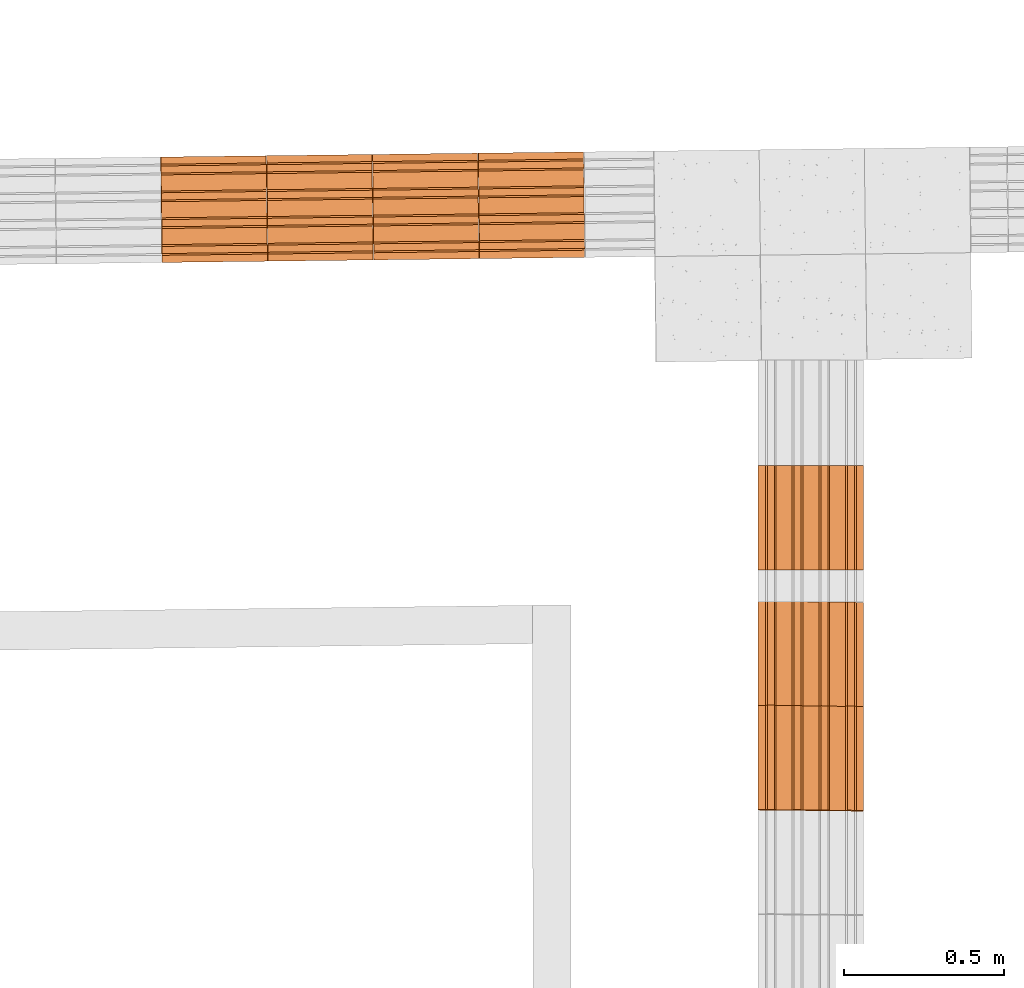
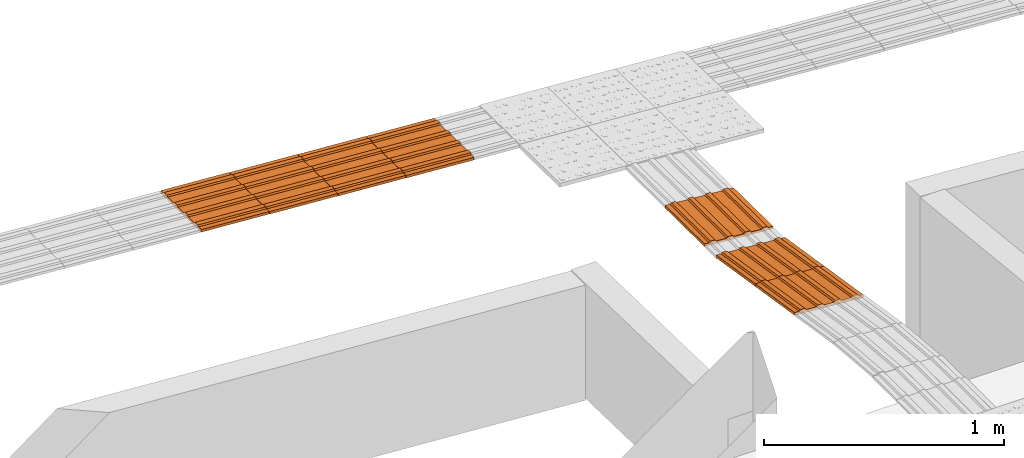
# One storey, part 198 of 237: 7 proxies.
"""IFC2X3 building model written with IfcOpenShell, lengths in millimetres."""

import ifcopenshell
import ifcopenshell.guid

model = None  # the IFC model being written
_history = None  # IfcOwnerHistory: only IFC2X3 demands one
_inside = {}  # id of a spatial element -> (the spatial element, [elements in it])
_under = {}  # id of a project, library or spatial element -> (it, [spatial elements below it])
_declared = {}  # id of a project -> (the project, [libraries it declares])
_typed = {}  # id of a type object -> (the type object, [elements of that type])
_made_of = {}  # id of a material, layer set ... -> (it, [elements and type objects made of it])


def new_model(schema):
    """Start an empty IFC model of exactly this schema.

    Asked for "IFC4X3", IfcOpenShell would pick the latest addendum, in which some entities
    have other attributes; the version numbers below select the first issue.
    IFC2X3 requires an IfcOwnerHistory on every rooted entity: one is made here for all.
    """
    global model, _history
    if schema == "IFC4X3":
        model = ifcopenshell.file(schema_version=(4, 3, 0, 0))
    else:
        model = ifcopenshell.file(schema=schema)
    _inside.clear()
    _under.clear()
    _declared.clear()
    _typed.clear()
    _made_of.clear()
    _history = None
    if model.schema == "IFC2X3":
        org = make("IfcOrganization", Name="unknown")
        user = make(
            "IfcPersonAndOrganization",
            ThePerson=make("IfcPerson", FamilyName="unknown"),
            TheOrganization=org,
        )
        app = make(
            "IfcApplication",
            ApplicationDeveloper=org,
            Version="unknown",
            ApplicationFullName="unknown",
            ApplicationIdentifier="unknown",
        )
        _history = make(
            "IfcOwnerHistory",
            OwningUser=user,
            OwningApplication=app,
            ChangeAction="ADDED",
            CreationDate=0,
        )
    return model


def make(cls, **values):
    """One entity of the class cls with the attributes given. An attribute that is None is left unset."""
    return model.create_entity(
        cls, **{name: value for name, value in values.items() if value is not None}
    )


def entity(cls, *values):
    """Any entity or typed value of the class cls, its attributes in the order of the schema. None: left unset."""
    e = model.create_entity(cls)
    for i, value in enumerate(values):
        if value is not None:
            e[i] = value
    return e


def rooted(cls, **values):
    """An entity with a GlobalId (a new one), such as an element, a storey or a relation."""
    return make(cls, GlobalId=ifcopenshell.guid.new(), OwnerHistory=_history, **values)


def si_unit(unit_type, name, prefix=None):
    """IfcSIUnit, for example si_unit("LENGTHUNIT", "METRE", prefix="MILLI")."""
    return make("IfcSIUnit", UnitType=unit_type, Prefix=prefix, Name=name)


def converted_unit(unit_type, name, factor, base, dimensions=None, offset=None):
    """IfcConversionBasedUnit, such as the inch: factor (a typed value) times the base unit."""
    return make(
        "IfcConversionBasedUnit"
        if offset is None
        else "IfcConversionBasedUnitWithOffset",
        ConversionOffset=offset,
        Dimensions=None
        if dimensions is None
        else entity("IfcDimensionalExponents", *dimensions),
        UnitType=unit_type,
        Name=name,
        ConversionFactor=make(
            "IfcMeasureWithUnit", ValueComponent=factor, UnitComponent=base
        ),
    )


def derived_unit(unit_type, elements):
    """IfcDerivedUnit: a product of units, each with its exponent."""
    return make(
        "IfcDerivedUnit",
        Elements=[
            make("IfcDerivedUnitElement", Unit=unit, Exponent=power)
            for unit, power in elements
        ],
        UnitType=unit_type,
    )


def money_unit(currency):
    """IfcMonetaryUnit."""
    return make("IfcMonetaryUnit", Currency=currency)


def assignment(units):
    """IfcUnitAssignment: the units of a project."""
    return None if units is None else make("IfcUnitAssignment", Units=units)


def point(xyz):
    """IfcCartesianPoint."""
    return None if xyz is None else make("IfcCartesianPoint", Coordinates=xyz)


def direction(xyz):
    """IfcDirection."""
    return None if xyz is None else make("IfcDirection", DirectionRatios=xyz)


def frame(location, z_axis=None, x_axis=None):
    """IfcAxis2Placement3D, a coordinate frame: its origin and axes. An axis left out is left unset."""
    return make(
        "IfcAxis2Placement3D",
        Location=point(location),
        Axis=direction(z_axis),
        RefDirection=direction(x_axis),
    )


def origin_with_axes():
    """The frame at (0, 0, 0) with the z axis (0, 0, 1) and the x axis (1, 0, 0) written out."""
    return frame((0.0, 0.0, 0.0), z_axis=(0.0, 0.0, 1.0), x_axis=(1.0, 0.0, 0.0))


def place(relative_to, where):
    """IfcLocalPlacement: puts the frame where relative to a parent placement (None: the world)."""
    return make(
        "IfcLocalPlacement", PlacementRelTo=relative_to, RelativePlacement=where
    )


def context(
    kind, dimensions, precision=None, world=None, true_north=None, identifier=None
):
    """IfcGeometricRepresentationContext, for example the 3D "Model" context."""
    return make(
        "IfcGeometricRepresentationContext",
        ContextIdentifier=identifier,
        ContextType=kind,
        CoordinateSpaceDimension=dimensions,
        Precision=precision,
        WorldCoordinateSystem=world,
        TrueNorth=true_north,
    )


def subcontext(parent, identifier, kind, view, scale=None):
    """IfcGeometricRepresentationSubContext, for example "Body" below "Model"."""
    return make(
        "IfcGeometricRepresentationSubContext",
        ContextIdentifier=identifier,
        ContextType=kind,
        ParentContext=parent,
        TargetScale=scale,
        TargetView=view,
    )


def project(units=None, contexts=None):
    """IfcProject with its units and contexts."""
    return rooted(
        "IfcProject",
        Name="project",
        RepresentationContexts=contexts,
        UnitsInContext=assignment(units),
    )


def spatial(cls, under=None, at=None, **own):
    """A site, building, storey or space (cls), placed at a placement, below another one or the project."""
    s = rooted(cls, ObjectPlacement=at, **own)
    if under is not None:
        _under.setdefault(under.id(), (under, []))[1].append(s)
    return s


def faces_of(points, faces, orient=None, outer=None):
    """IfcFace entities. A face is a list of loops; a loop is a list of indices into points, from 0.

    orient and outer hold one flag for each loop. By default every Orientation is true, the
    first loop of a face is its IfcFaceOuterBound and the others are IfcFaceBound.
    """
    made = []
    for i, loops in enumerate(faces):
        bounds = []
        for j, loop in enumerate(loops):
            is_outer = j == 0 if outer is None else outer[i][j]
            bounds.append(
                make(
                    "IfcFaceOuterBound" if is_outer else "IfcFaceBound",
                    Bound=make("IfcPolyLoop", Polygon=[points[k] for k in loop]),
                    Orientation=True if orient is None else orient[i][j],
                )
            )
        made.append(make("IfcFace", Bounds=bounds))
    return made


def open_shell(faces, orient=None, outer=None):
    """The faces of one IfcOpenShell. surface_model builds it on its shared points."""
    return ("IfcOpenShell", faces, orient, outer)


def surface_model(cls, points, shells):
    """IfcFaceBasedSurfaceModel or IfcShellBasedSurfaceModel (cls): surfaces that need not close."""
    shared = [point(p) for p in points]
    made = [make(c, CfsFaces=faces_of(shared, fs, o, b)) for c, fs, o, b in shells]
    if cls == "IfcFaceBasedSurfaceModel":
        return make(cls, FbsmFaces=made)
    return make(cls, SbsmBoundary=made)


def shape(context_of_items, identifier, shape_type, items):
    """IfcShapeRepresentation: the items that make up one representation, for example the "Body"."""
    return make(
        "IfcShapeRepresentation",
        ContextOfItems=context_of_items,
        RepresentationIdentifier=identifier,
        RepresentationType=shape_type,
        Items=items,
    )


def source(mapping_origin, context_of_items, identifier, shape_type, items):
    """IfcRepresentationMap: a shape defined once, which mapped items show again and again."""
    return make(
        "IfcRepresentationMap",
        MappingOrigin=mapping_origin,
        MappedRepresentation=shape(context_of_items, identifier, shape_type, items),
    )


def transform(
    local_origin,
    x_axis=None,
    y_axis=None,
    z_axis=None,
    scale=None,
    scale2=None,
    scale3=None,
    uniform=True,
):
    """IfcCartesianTransformationOperator3D, or its non-uniform kind. x_axis, y_axis, z_axis: its Axis1, 2, 3."""
    if uniform:
        return make(
            "IfcCartesianTransformationOperator3D",
            Axis1=direction(x_axis),
            Axis2=direction(y_axis),
            LocalOrigin=point(local_origin),
            Scale=scale,
            Axis3=direction(z_axis),
        )
    return make(
        "IfcCartesianTransformationOperator3DnonUniform",
        Axis1=direction(x_axis),
        Axis2=direction(y_axis),
        LocalOrigin=point(local_origin),
        Scale=scale,
        Axis3=direction(z_axis),
        Scale2=scale2,
        Scale3=scale3,
    )


def mapped(mapping_source, mapping_target):
    """IfcMappedItem: shows the shape of a source again, moved by a transform."""
    return make(
        "IfcMappedItem", MappingSource=mapping_source, MappingTarget=mapping_target
    )


def made_of(thing, what):
    """Note that an element or type object is made of a material, layer set ...; save() writes the relation."""
    if what is not None:
        _made_of.setdefault(what.id(), (what, []))[1].append(thing)
    return thing


def type_object(cls, material=None, **own):
    """A type object (cls), such as IfcWallType, which elements share."""
    return made_of(rooted(cls, **own), material)


def element(
    cls,
    number,
    at=None,
    inside=None,
    cuts=None,
    type_object=None,
    material=None,
    context=None,
    identifier="Body",
    shape_type=None,
    held_by="IfcProductDefinitionShape",
    body=None,
    shapes=None,
    **own,
):
    """One element of the class cls, such as IfcWall. Its Tag is "e" and its number.

    at: its placement. inside: the storey or other place that contains it. cuts: it is an
    opening in that element (IfcRelVoidsElement). A single representation is given by context,
    identifier, shape_type and body (its items); several are given by shapes. held_by: the class
    of the entity that holds the representations. save() writes the other relations.
    """
    e = rooted(cls, Tag="e%d" % number, ObjectPlacement=at, **own)
    if body is not None:
        shapes = [shape(context, identifier, shape_type, body)]
    if shapes is not None:
        e.Representation = make(held_by, Representations=shapes)
    if inside is not None:
        _inside.setdefault(inside.id(), (inside, []))[1].append(e)
    if cuts is not None:
        rooted(
            "IfcRelVoidsElement", RelatingBuildingElement=cuts, RelatedOpeningElement=e
        )
    if type_object is not None:
        _typed.setdefault(type_object.id(), (type_object, []))[1].append(e)
    return made_of(e, material)


def aggregate(whole, parts):
    """IfcRelAggregates: a whole, such as a stair, and the parts it consists of."""
    return rooted("IfcRelAggregates", RelatingObject=whole, RelatedObjects=parts)


def save(model, path):
    """Write the relations noted so far, then the file.

    IfcRelAggregates (storeys below a building ...), IfcRelContainedInSpatialStructure (elements
    in a storey), IfcRelDefinesByType, IfcRelAssociatesMaterial and IfcRelDeclares: one each for
    every whole, place, type object, material and project.
    """
    for whole, parts in _under.values():
        aggregate(whole, parts)
    for where, things in _inside.values():
        rooted(
            "IfcRelContainedInSpatialStructure",
            RelatedElements=things,
            RelatingStructure=where,
        )
    for kind, things in _typed.values():
        rooted("IfcRelDefinesByType", RelatedObjects=things, RelatingType=kind)
    for what, things in _made_of.values():
        rooted("IfcRelAssociatesMaterial", RelatedObjects=things, RelatingMaterial=what)
    for by, libraries in _declared.values():
        rooted("IfcRelDeclares", RelatingContext=by, RelatedDefinitions=libraries)
    model.write(path)


model = new_model("IFC2X3")

# Units and contexts
model_context = context("Model", 3, precision=0.01, world=origin_with_axes(), true_north=direction((0.0, 1.0)))
body_context = subcontext(model_context, "Body", "Model", "MODEL_VIEW")
ifc_project = project(units=[si_unit("LENGTHUNIT", "METRE", prefix="MILLI"), si_unit("AREAUNIT", "SQUARE_METRE"), si_unit("VOLUMEUNIT", "CUBIC_METRE"), converted_unit("PLANEANGLEUNIT", "DEGREE", entity("IfcPlaneAngleMeasure", 0.0174532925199), si_unit("PLANEANGLEUNIT", "RADIAN"), dimensions=[0, 0, 0, 0, 0, 0, 0]), money_unit("USD"), converted_unit("TIMEUNIT", "Year", entity("IfcTimeMeasure", 31556926.0), si_unit("TIMEUNIT", "SECOND"), dimensions=[0, 0, 1, 0, 0, 0, 0]), si_unit("MASSUNIT", "GRAM", prefix="KILO"), si_unit("THERMODYNAMICTEMPERATUREUNIT", "DEGREE_CELSIUS"), si_unit("LUMINOUSINTENSITYUNIT", "LUMEN"), si_unit("ENERGYUNIT", "JOULE", prefix="MEGA"), derived_unit("THERMALCONDUCTANCEUNIT", [(si_unit("POWERUNIT", "WATT"), 1), (si_unit("LENGTHUNIT", "METRE"), -1), (si_unit("THERMODYNAMICTEMPERATUREUNIT", "KELVIN"), -1)]), derived_unit("SPECIFICHEATCAPACITYUNIT", [(si_unit("ENERGYUNIT", "JOULE"), 1), (si_unit("MASSUNIT", "GRAM", prefix="KILO"), -1), (si_unit("THERMODYNAMICTEMPERATUREUNIT", "KELVIN"), -1)]), derived_unit("MASSDENSITYUNIT", [(si_unit("MASSUNIT", "GRAM", prefix="KILO"), 1), (si_unit("VOLUMEUNIT", "CUBIC_METRE"), -1)])], contexts=[model_context])

# Site, building, storey
site_placement = place(None, origin_with_axes())
site = spatial("IfcSite", under=ifc_project, at=site_placement, Name="Local", CompositionType="ELEMENT")
building_placement = place(site_placement, origin_with_axes())
building = spatial("IfcBuilding", under=site, at=building_placement, Name="Construção", CompositionType="ELEMENT")
storey_placement = place(building_placement, origin_with_axes())
storey = spatial("IfcBuildingStorey", under=building, at=storey_placement, Name="Pavimento Térreo", CompositionType="ELEMENT", Elevation=0.0)

# Proxies
building_element_proxy_type = type_object("IfcBuildingElementProxyType", Name="Piso Direcional 27", PredefinedType="NOTDEFINED")
shared_shape_1 = source(origin_with_axes(), body_context, "Body", "SurfaceModel", [
    surface_model("IfcShellBasedSurfaceModel", [(-0.309064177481, -47.258225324, 4.01664745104), (328.718344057, -47.258225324, 29.3339267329), (328.20688387, -41.665004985, 35.9809450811), (-0.820524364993, -41.665004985, 10.6636657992)], [open_shell([[[0, 1, 2, 3]]])]),
    surface_model("IfcShellBasedSurfaceModel", [(329.741264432, -153.529411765, 16.0398900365), (329.741264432, 176.470588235, 16.0398900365), (328.718344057, 176.470588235, 29.3339267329), (328.718344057, 154.097706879, 29.3339267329), (328.20688387, 148.50448654, 35.9809450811), (328.20688387, 126.131605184, 35.9809450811), (328.718344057, 120.538384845, 29.3339267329), (328.718344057, 70.1994017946, 29.3339267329), (328.20688387, 64.6061814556, 35.9809450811), (328.20688387, 42.2333000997, 35.9809450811), (328.718344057, 36.6400797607, 29.3339267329), (328.718344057, -13.6989032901, 29.3339267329), (328.20688387, -19.2921236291, 35.9809450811), (328.20688387, -41.665004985, 35.9809450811), (328.718344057, -47.258225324, 29.3339267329), (328.718344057, -97.5972083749, 29.3339267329), (328.20688387, -103.190428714, 35.9809450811), (328.20688387, -125.56331007, 35.9809450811), (328.718344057, -131.156530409, 29.3339267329), (328.718344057, -153.529411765, 29.3339267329)], [open_shell([[[0, 1, 2, 3, 4, 5, 6, 7, 8, 9, 10, 11, 12, 13, 14, 15, 16, 17, 18, 19]]])]),
    surface_model("IfcShellBasedSurfaceModel", [(-0.820524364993, -19.2921236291, 10.6636657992), (328.20688387, -19.2921236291, 35.9809450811), (328.718344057, -13.6989032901, 29.3339267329), (-0.309064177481, -13.6989032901, 4.01664745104)], [open_shell([[[0, 1, 2, 3]]])]),
    surface_model("IfcShellBasedSurfaceModel", [(-0.820524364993, -103.190428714, 10.6636657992), (328.20688387, -103.190428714, 35.9809450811), (328.718344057, -97.5972083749, 29.3339267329), (-0.309064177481, -97.5972083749, 4.01664745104)], [open_shell([[[0, 1, 2, 3]]])]),
    surface_model("IfcShellBasedSurfaceModel", [(-0.820524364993, 64.6061814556, 10.6636657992), (328.20688387, 64.6061814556, 35.9809450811), (328.718344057, 70.1994017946, 29.3339267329), (-0.309064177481, 70.1994017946, 4.01664745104)], [open_shell([[[0, 1, 2, 3]]])]),
    surface_model("IfcShellBasedSurfaceModel", [(-0.309064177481, 36.6400797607, 4.01664745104), (328.718344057, 36.6400797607, 29.3339267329), (328.20688387, 42.2333000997, 35.9809450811), (-0.820524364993, 42.2333000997, 10.6636657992)], [open_shell([[[0, 1, 2, 3]]])]),
    surface_model("IfcShellBasedSurfaceModel", [(-0.309064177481, -131.156530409, 4.01664745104), (328.718344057, -131.156530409, 29.3339267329), (328.20688387, -125.56331007, 35.9809450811), (-0.820524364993, -125.56331007, 10.6636657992)], [open_shell([[[0, 1, 2, 3]]])]),
    surface_model("IfcShellBasedSurfaceModel", [(-0.309064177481, 176.470588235, 4.01664745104), (-0.309064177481, 154.097706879, 4.01664745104), (328.718344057, 154.097706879, 29.3339267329), (328.718344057, 176.470588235, 29.3339267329)], [open_shell([[[0, 1, 2, 3]]])]),
    surface_model("IfcShellBasedSurfaceModel", [(-0.309064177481, 120.538384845, 4.01664745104), (328.718344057, 120.538384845, 29.3339267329), (328.20688387, 126.131605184, 35.9809450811), (-0.820524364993, 126.131605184, 10.6636657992)], [open_shell([[[0, 1, 2, 3]]])]),
    surface_model("IfcShellBasedSurfaceModel", [(-0.820524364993, 148.50448654, 10.6636657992), (328.20688387, 148.50448654, 35.9809450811), (328.718344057, 154.097706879, 29.3339267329), (-0.309064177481, 154.097706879, 4.01664745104)], [open_shell([[[0, 1, 2, 3]]])]),
    surface_model("IfcShellBasedSurfaceModel", [(-0.309064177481, 36.6400797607, 4.01664745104), (-0.309064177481, -13.6989032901, 4.01664745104), (328.718344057, -13.6989032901, 29.3339267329), (328.718344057, 36.6400797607, 29.3339267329)], [open_shell([[[0, 1, 2, 3]]])]),
    surface_model("IfcShellBasedSurfaceModel", [(-0.309064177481, 120.538384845, 4.01664745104), (-0.309064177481, 70.1994017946, 4.01664745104), (328.718344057, 70.1994017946, 29.3339267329), (328.718344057, 120.538384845, 29.3339267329)], [open_shell([[[0, 1, 2, 3]]])]),
    surface_model("IfcShellBasedSurfaceModel", [(-0.820524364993, 148.50448654, 10.6636657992), (-0.820524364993, 126.131605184, 10.6636657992), (328.20688387, 126.131605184, 35.9809450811), (328.20688387, 148.50448654, 35.9809450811)], [open_shell([[[0, 1, 2, 3]]])]),
    surface_model("IfcShellBasedSurfaceModel", [(-0.309064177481, 120.538384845, 4.01664745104), (-0.820524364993, 126.131605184, 10.6636657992), (-0.820524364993, 148.50448654, 10.6636657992), (-0.309064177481, 154.097706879, 4.01664745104), (-0.309064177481, 176.470588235, 4.01664745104), (0.713856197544, 176.470588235, -9.27738924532), (0.713856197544, -153.529411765, -9.27738924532), (-0.309064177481, -153.529411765, 4.01664745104), (-0.309064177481, -131.156530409, 4.01664745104), (-0.820524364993, -125.56331007, 10.6636657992), (-0.820524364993, -103.190428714, 10.6636657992), (-0.309064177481, -97.5972083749, 4.01664745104), (-0.309064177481, -47.258225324, 4.01664745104), (-0.820524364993, -41.665004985, 10.6636657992), (-0.820524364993, -19.2921236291, 10.6636657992), (-0.309064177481, -13.6989032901, 4.01664745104), (-0.309064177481, 36.6400797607, 4.01664745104), (-0.820524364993, 42.2333000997, 10.6636657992), (-0.820524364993, 64.6061814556, 10.6636657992), (-0.309064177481, 70.1994017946, 4.01664745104)], [open_shell([[[0, 1, 2, 3, 4, 5, 6, 7, 8, 9, 10, 11, 12, 13, 14, 15, 16, 17, 18, 19]]])]),
    surface_model("IfcShellBasedSurfaceModel", [(328.20688387, -41.665004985, 35.9809450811), (328.20688387, -19.2921236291, 35.9809450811), (-0.820524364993, -19.2921236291, 10.6636657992), (-0.820524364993, -41.665004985, 10.6636657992)], [open_shell([[[0, 1, 2, 3]]])]),
    surface_model("IfcShellBasedSurfaceModel", [(-0.309064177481, -47.258225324, 4.01664745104), (-0.309064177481, -97.5972083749, 4.01664745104), (328.718344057, -97.5972083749, 29.3339267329), (328.718344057, -47.258225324, 29.3339267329)], [open_shell([[[0, 1, 2, 3]]])]),
    surface_model("IfcShellBasedSurfaceModel", [(328.20688387, 42.2333000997, 35.9809450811), (328.20688387, 64.6061814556, 35.9809450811), (-0.820524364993, 64.6061814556, 10.6636657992), (-0.820524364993, 42.2333000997, 10.6636657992)], [open_shell([[[0, 1, 2, 3]]])]),
    surface_model("IfcShellBasedSurfaceModel", [(328.20688387, -125.56331007, 35.9809450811), (328.20688387, -103.190428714, 35.9809450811), (-0.820524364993, -103.190428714, 10.6636657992), (-0.820524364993, -125.56331007, 10.6636657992)], [open_shell([[[0, 1, 2, 3]]])]),
    surface_model("IfcShellBasedSurfaceModel", [(329.741264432, 176.470588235, 16.0398900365), (0.713856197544, 176.470588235, -9.27738924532), (-0.309064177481, 176.470588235, 4.01664745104), (328.718344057, 176.470588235, 29.3339267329)], [open_shell([[[0, 1, 2, 3]]])]),
    surface_model("IfcShellBasedSurfaceModel", [(329.741264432, -153.529411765, 16.0398900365), (0.713856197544, -153.529411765, -9.27738924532), (0.713856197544, 176.470588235, -9.27738924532), (329.741264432, 176.470588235, 16.0398900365)], [open_shell([[[0, 1, 2, 3]]])]),
    surface_model("IfcShellBasedSurfaceModel", [(328.718344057, -153.529411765, 29.3339267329), (328.718344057, -131.156530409, 29.3339267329), (-0.309064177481, -131.156530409, 4.01664745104), (-0.309064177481, -153.529411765, 4.01664745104)], [open_shell([[[0, 1, 2, 3]]])]),
    surface_model("IfcShellBasedSurfaceModel", [(0.713856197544, -153.529411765, -9.27738924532), (329.741264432, -153.529411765, 16.0398900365), (328.718344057, -153.529411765, 29.3339267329), (-0.309064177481, -153.529411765, 4.01664745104)], [open_shell([[[0, 1, 2, 3]]])]),
])
for number, where, z_axis, x_axis, name in (
    (1, (96110.6175654, 37214.4144192, -5054.85692705), (0.0, 0.0, 1.0), (-0.999926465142, -0.012127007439, 0.0), "Objeto-0055"),
    (2, (96441.6147719, 37218.4287199, -5081.34993015), (0.0, 0.0, 1.0), (-0.999926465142, -0.012127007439, 0.0), "Objeto-0055"),
    (3, (96772.6119784, 37222.4430207, -5107.84293326), (0.0, 0.0, 1.0), (-0.999926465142, -0.012127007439, 0.0), "Objeto-0055"),
    (4, (97103.6091849, 37226.4573215, -5134.33593636), (0.0, 0.0, 1.0), (-0.999926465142, -0.012127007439, 0.0), "Objeto-0055"),
):
    element("IfcBuildingElementProxy", number, at=place(storey_placement, frame(where, z_axis=z_axis, x_axis=x_axis)), inside=storey, type_object=building_element_proxy_type, Name=name, context=body_context, shape_type="MappedRepresentation", body=[
        mapped(shared_shape_1, transform((0.0, 0.0, 0.0))),
    ])
shared_shape_2 = source(origin_with_axes(), body_context, "Body", "SurfaceModel", [
    surface_model("IfcShellBasedSurfaceModel", [(-1.1443610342, -46.8620912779, 7.22521121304), (324.792791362, -46.8620912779, 58.8485846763), (323.813470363, -40.8174525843, 65.0317741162), (-2.12368203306, -40.8174525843, 13.4084006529)], [open_shell([[[0, 1, 2, 3]]])]),
    surface_model("IfcShellBasedSurfaceModel", [(325.713838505, -153.804492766, 53.0333218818), (329.314903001, 175.39164382, 30.2970954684), (327.23419102, 176.321730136, 43.4341938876), (326.990051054, 154.003347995, 44.9756329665), (325.888660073, 148.888795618, 51.9295419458), (325.644520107, 126.570413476, 53.4709810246), (326.623841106, 120.525774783, 47.2877915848), (326.074526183, 70.3094149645, 50.7560295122), (324.973135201, 65.1948625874, 57.7099384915), (324.728995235, 42.876480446, 59.2513775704), (325.708316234, 36.8318417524, 53.0681881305), (325.159001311, -13.3845180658, 56.536426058), (324.057610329, -18.4990704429, 63.4903350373), (323.813470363, -40.8174525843, 65.0317741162), (324.792791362, -46.8620912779, 58.8485846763), (324.243476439, -97.0784510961, 62.3168226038), (323.142085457, -102.193003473, 69.2707315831), (322.897945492, -124.511385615, 70.812170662), (323.87726649, -130.556024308, 64.6289812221), (323.633126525, -152.87440645, 66.170420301)], [open_shell([[[0, 1, 2, 3, 4, 5, 6, 7, 8, 9, 10, 11, 12, 13, 14, 15, 16, 17, 18, 19]]])]),
    surface_model("IfcShellBasedSurfaceModel", [(-1.87954206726, -18.4990704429, 11.866961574), (324.057610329, -18.4990704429, 63.4903350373), (325.159001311, -13.3845180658, 56.536426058), (-0.778151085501, -13.3845180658, 4.91305259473)], [open_shell([[[0, 1, 2, 3]]])]),
    surface_model("IfcShellBasedSurfaceModel", [(-2.79506693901, -102.193003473, 17.6473581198), (323.142085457, -102.193003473, 69.2707315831), (324.243476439, -97.0784510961, 62.3168226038), (-1.69367595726, -97.0784510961, 10.6934491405)], [open_shell([[[0, 1, 2, 3]]])]),
    surface_model("IfcShellBasedSurfaceModel", [(-0.964017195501, 65.1948625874, 6.08656502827), (324.973135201, 65.1948625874, 57.7099384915), (326.074526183, 70.3094149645, 50.7560295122), (0.137373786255, 70.3094149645, -0.867343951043)], [open_shell([[[0, 1, 2, 3]]])]),
    surface_model("IfcShellBasedSurfaceModel", [(-0.228836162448, 36.8318417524, 1.44481466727), (325.708316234, 36.8318417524, 53.0681881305), (324.728995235, 42.876480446, 59.2513775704), (-1.2081571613, 42.876480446, 7.62800410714)], [open_shell([[[0, 1, 2, 3]]])]),
    surface_model("IfcShellBasedSurfaceModel", [(-2.05988590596, -130.556024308, 13.0056077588), (323.87726649, -130.556024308, 64.6289812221), (322.897945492, -124.511385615, 70.812170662), (-3.03920690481, -124.511385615, 19.1887971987)], [open_shell([[[0, 1, 2, 3]]])]),
    surface_model("IfcShellBasedSurfaceModel", [(1.29703862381, 176.321730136, -8.18917957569), (1.05289865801, 154.003347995, -6.64774049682), (326.990051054, 154.003347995, 44.9756329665), (327.23419102, 176.321730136, 43.4341938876)], [open_shell([[[0, 1, 2, 3]]])]),
    surface_model("IfcShellBasedSurfaceModel", [(0.686688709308, 120.525774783, -4.33558187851), (326.623841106, 120.525774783, 47.2877915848), (325.644520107, 126.570413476, 53.4709810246), (-0.292632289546, 126.570413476, 1.84760756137)], [open_shell([[[0, 1, 2, 3]]])]),
    surface_model("IfcShellBasedSurfaceModel", [(-0.0484923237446, 148.888795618, 0.306168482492), (325.888660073, 148.888795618, 51.9295419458), (326.990051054, 154.003347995, 44.9756329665), (1.05289865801, 154.003347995, -6.64774049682)], [open_shell([[[0, 1, 2, 3]]])]),
    surface_model("IfcShellBasedSurfaceModel", [(-0.228836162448, 36.8318417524, 1.44481466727), (-0.778151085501, -13.3845180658, 4.91305259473), (325.159001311, -13.3845180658, 56.536426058), (325.708316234, 36.8318417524, 53.0681881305)], [open_shell([[[0, 1, 2, 3]]])]),
    surface_model("IfcShellBasedSurfaceModel", [(0.686688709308, 120.525774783, -4.33558187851), (0.137373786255, 70.3094149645, -0.867343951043), (326.074526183, 70.3094149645, 50.7560295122), (326.623841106, 120.525774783, 47.2877915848)], [open_shell([[[0, 1, 2, 3]]])]),
    surface_model("IfcShellBasedSurfaceModel", [(-0.0484923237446, 148.888795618, 0.306168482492), (-0.292632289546, 126.570413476, 1.84760756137), (325.644520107, 126.570413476, 53.4709810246), (325.888660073, 148.888795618, 51.9295419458)], [open_shell([[[0, 1, 2, 3]]])]),
    surface_model("IfcShellBasedSurfaceModel", [(0.686688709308, 120.525774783, -4.33558187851), (-0.292632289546, 126.570413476, 1.84760756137), (-0.0484923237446, 148.888795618, 0.306168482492), (1.05289865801, 154.003347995, -6.64774049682), (1.29703862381, 176.321730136, -8.18917957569), (3.37775060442, 175.39164382, -21.3262779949), (-0.223313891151, -153.804492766, 1.40994841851), (-2.30402587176, -152.87440645, 14.5470468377), (-2.05988590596, -130.556024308, 13.0056077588), (-3.03920690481, -124.511385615, 19.1887971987), (-2.79506693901, -102.193003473, 17.6473581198), (-1.69367595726, -97.0784510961, 10.6934491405), (-1.1443610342, -46.8620912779, 7.22521121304), (-2.12368203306, -40.8174525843, 13.4084006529), (-1.87954206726, -18.4990704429, 11.866961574), (-0.778151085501, -13.3845180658, 4.91305259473), (-0.228836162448, 36.8318417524, 1.44481466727), (-1.2081571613, 42.876480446, 7.62800410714), (-0.964017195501, 65.1948625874, 6.08656502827), (0.137373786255, 70.3094149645, -0.867343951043)], [open_shell([[[0, 1, 2, 3, 4, 5, 6, 7, 8, 9, 10, 11, 12, 13, 14, 15, 16, 17, 18, 19]]])]),
    surface_model("IfcShellBasedSurfaceModel", [(323.813470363, -40.8174525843, 65.0317741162), (324.057610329, -18.4990704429, 63.4903350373), (-1.87954206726, -18.4990704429, 11.866961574), (-2.12368203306, -40.8174525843, 13.4084006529)], [open_shell([[[0, 1, 2, 3]]])]),
    surface_model("IfcShellBasedSurfaceModel", [(-1.1443610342, -46.8620912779, 7.22521121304), (-1.69367595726, -97.0784510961, 10.6934491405), (324.243476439, -97.0784510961, 62.3168226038), (324.792791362, -46.8620912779, 58.8485846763)], [open_shell([[[0, 1, 2, 3]]])]),
    surface_model("IfcShellBasedSurfaceModel", [(324.728995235, 42.876480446, 59.2513775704), (324.973135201, 65.1948625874, 57.7099384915), (-0.964017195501, 65.1948625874, 6.08656502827), (-1.2081571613, 42.876480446, 7.62800410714)], [open_shell([[[0, 1, 2, 3]]])]),
    surface_model("IfcShellBasedSurfaceModel", [(322.897945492, -124.511385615, 70.812170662), (323.142085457, -102.193003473, 69.2707315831), (-2.79506693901, -102.193003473, 17.6473581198), (-3.03920690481, -124.511385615, 19.1887971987)], [open_shell([[[0, 1, 2, 3]]])]),
    surface_model("IfcShellBasedSurfaceModel", [(329.314903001, 175.39164382, 30.2970954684), (3.37775060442, 175.39164382, -21.3262779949), (1.29703862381, 176.321730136, -8.18917957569), (327.23419102, 176.321730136, 43.4341938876)], [open_shell([[[0, 1, 2, 3]]])]),
    surface_model("IfcShellBasedSurfaceModel", [(325.713838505, -153.804492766, 53.0333218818), (-0.223313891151, -153.804492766, 1.40994841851), (3.37775060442, 175.39164382, -21.3262779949), (329.314903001, 175.39164382, 30.2970954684)], [open_shell([[[0, 1, 2, 3]]])]),
    surface_model("IfcShellBasedSurfaceModel", [(323.633126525, -152.87440645, 66.170420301), (323.87726649, -130.556024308, 64.6289812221), (-2.05988590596, -130.556024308, 13.0056077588), (-2.30402587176, -152.87440645, 14.5470468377)], [open_shell([[[0, 1, 2, 3]]])]),
    surface_model("IfcShellBasedSurfaceModel", [(-0.223313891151, -153.804492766, 1.40994841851), (325.713838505, -153.804492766, 53.0333218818), (323.633126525, -152.87440645, 66.170420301), (-2.30402587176, -152.87440645, 14.5470468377)], [open_shell([[[0, 1, 2, 3]]])]),
])
for number, where, z_axis, x_axis, name in (
    (5, (97801.7189326, 35645.9894096, -5127.8433012), (0.0, 0.0, 1.0), (0.0, -1.0, 0.0), "Objeto-0055"),
    (6, (97801.7189326, 35971.926562, -5179.46667466), (0.0, 0.0, 1.0), (0.0, -1.0, 0.0), "Objeto-0055"),
):
    element("IfcBuildingElementProxy", number, at=place(storey_placement, frame(where, z_axis=z_axis, x_axis=x_axis)), inside=storey, type_object=building_element_proxy_type, Name=name, context=body_context, shape_type="MappedRepresentation", body=[
        mapped(shared_shape_2, transform((0.0, 0.0, 0.0))),
    ])
shared_shape_3 = source(origin_with_axes(), body_context, "Body", "SurfaceModel", [
    surface_model("IfcShellBasedSurfaceModel", [(-0.06669038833, -46.8098794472, 7.64196157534), (327.881262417, -46.8098794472, 10.5039200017), (327.827001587, -40.7216835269, 16.7215951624), (-0.120951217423, -40.7216835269, 13.859636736)], [open_shell([[[0, 1, 2, 3]]])]),
    surface_model("IfcShellBasedSurfaceModel", [(327.926125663, -153.790778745, 5.36310120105), (328.147057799, 175.23662949, -19.9532140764), (328.031046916, 176.259549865, -6.65968357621), (328.016068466, 153.952606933, -4.94332321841), (327.954318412, 148.887331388, 2.13253212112), (327.939339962, 126.580388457, 3.84889247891), (327.993600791, 120.492192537, -2.36878268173), (327.959899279, 70.3015709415, 1.49302812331), (327.898149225, 65.2362953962, 8.56888346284), (327.883170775, 42.929352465, 10.2852438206), (327.937431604, 36.8411565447, 4.06756865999), (327.903730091, -13.3494650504, 7.92937946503), (327.841980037, -18.4147405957, 15.0052348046), (327.827001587, -40.7216835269, 16.7215951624), (327.881262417, -46.8098794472, 10.5039200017), (327.847560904, -97.0005010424, 14.3657308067), (327.78581085, -102.065776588, 21.4415861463), (327.7708324, -124.372719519, 23.1579465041), (327.825093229, -130.460915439, 16.9402713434), (327.810114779, -152.76785837, 18.6566317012)], [open_shell([[[0, 1, 2, 3, 4, 5, 6, 7, 8, 9, 10, 11, 12, 13, 14, 15, 16, 17, 18, 19]]])]),
    surface_model("IfcShellBasedSurfaceModel", [(-0.105972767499, -18.4147405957, 12.1432763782), (327.841980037, -18.4147405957, 15.0052348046), (327.903730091, -13.3494650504, 7.92937946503), (-0.0442227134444, -13.3494650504, 5.06742103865)], [open_shell([[[0, 1, 2, 3]]])]),
    surface_model("IfcShellBasedSurfaceModel", [(-0.162141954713, -102.065776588, 18.5796277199), (327.78581085, -102.065776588, 21.4415861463), (327.847560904, -97.0005010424, 14.3657308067), (-0.100391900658, -97.0005010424, 11.5037723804)], [open_shell([[[0, 1, 2, 3]]])]),
    surface_model("IfcShellBasedSurfaceModel", [(-0.049803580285, 65.2362953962, 5.70692503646), (327.898149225, 65.2362953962, 8.56888346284), (327.959899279, 70.3015709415, 1.49302812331), (0.0119464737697, 70.3015709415, -1.36893030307)], [open_shell([[[0, 1, 2, 3]]])]),
    surface_model("IfcShellBasedSurfaceModel", [(-0.010521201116, 36.8411565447, 1.20561023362), (327.937431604, 36.8411565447, 4.06756865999), (327.883170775, 42.929352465, 10.2852438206), (-0.0647820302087, 42.929352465, 7.42328539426)], [open_shell([[[0, 1, 2, 3]]])]),
    surface_model("IfcShellBasedSurfaceModel", [(-0.122859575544, -130.460915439, 14.0783129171), (327.825093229, -130.460915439, 16.9402713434), (327.7708324, -124.372719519, 23.1579465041), (-0.177120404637, -124.372719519, 20.2959880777)], [open_shell([[[0, 1, 2, 3]]])]),
    surface_model("IfcShellBasedSurfaceModel", [(0.0830941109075, 176.259549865, -9.52164200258), (0.0681156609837, 153.952606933, -7.80528164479), (328.016068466, 153.952606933, -4.94332321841), (328.031046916, 176.259549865, -6.65968357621)], [open_shell([[[0, 1, 2, 3]]])]),
    surface_model("IfcShellBasedSurfaceModel", [(0.0456479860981, 120.492192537, -5.2307411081), (327.993600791, 120.492192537, -2.36878268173), (327.939339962, 126.580388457, 3.84889247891), (-0.00861284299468, 126.580388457, 0.986934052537)], [open_shell([[[0, 1, 2, 3]]])]),
    surface_model("IfcShellBasedSurfaceModel", [(0.00636560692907, 148.887331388, -0.729426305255), (327.954318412, 148.887331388, 2.13253212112), (328.016068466, 153.952606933, -4.94332321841), (0.0681156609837, 153.952606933, -7.80528164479)], [open_shell([[[0, 1, 2, 3]]])]),
    surface_model("IfcShellBasedSurfaceModel", [(-0.010521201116, 36.8411565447, 1.20561023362), (-0.0442227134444, -13.3494650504, 5.06742103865), (327.903730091, -13.3494650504, 7.92937946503), (327.937431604, 36.8411565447, 4.06756865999)], [open_shell([[[0, 1, 2, 3]]])]),
    surface_model("IfcShellBasedSurfaceModel", [(0.0456479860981, 120.492192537, -5.2307411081), (0.0119464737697, 70.3015709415, -1.36893030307), (327.959899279, 70.3015709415, 1.49302812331), (327.993600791, 120.492192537, -2.36878268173)], [open_shell([[[0, 1, 2, 3]]])]),
    surface_model("IfcShellBasedSurfaceModel", [(0.00636560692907, 148.887331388, -0.729426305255), (-0.00861284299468, 126.580388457, 0.986934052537), (327.939339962, 126.580388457, 3.84889247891), (327.954318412, 148.887331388, 2.13253212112)], [open_shell([[[0, 1, 2, 3]]])]),
    surface_model("IfcShellBasedSurfaceModel", [(0.0456479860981, 120.492192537, -5.2307411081), (-0.00861284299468, 126.580388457, 0.986934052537), (0.00636560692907, 148.887331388, -0.729426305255), (0.0681156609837, 153.952606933, -7.80528164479), (0.0830941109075, 176.259549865, -9.52164200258), (0.199104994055, 175.23662949, -22.8151725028), (-0.0218271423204, -153.790778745, 2.50114277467), (-0.137838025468, -152.76785837, 15.7946732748), (-0.122859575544, -130.460915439, 14.0783129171), (-0.177120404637, -124.372719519, 20.2959880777), (-0.162141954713, -102.065776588, 18.5796277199), (-0.100391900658, -97.0005010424, 11.5037723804), (-0.06669038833, -46.8098794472, 7.64196157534), (-0.120951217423, -40.7216835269, 13.859636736), (-0.105972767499, -18.4147405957, 12.1432763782), (-0.0442227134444, -13.3494650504, 5.06742103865), (-0.010521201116, 36.8411565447, 1.20561023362), (-0.0647820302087, 42.929352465, 7.42328539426), (-0.049803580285, 65.2362953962, 5.70692503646), (0.0119464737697, 70.3015709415, -1.36893030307)], [open_shell([[[0, 1, 2, 3, 4, 5, 6, 7, 8, 9, 10, 11, 12, 13, 14, 15, 16, 17, 18, 19]]])]),
    surface_model("IfcShellBasedSurfaceModel", [(327.827001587, -40.7216835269, 16.7215951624), (327.841980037, -18.4147405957, 15.0052348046), (-0.105972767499, -18.4147405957, 12.1432763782), (-0.120951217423, -40.7216835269, 13.859636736)], [open_shell([[[0, 1, 2, 3]]])]),
    surface_model("IfcShellBasedSurfaceModel", [(-0.06669038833, -46.8098794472, 7.64196157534), (-0.100391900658, -97.0005010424, 11.5037723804), (327.847560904, -97.0005010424, 14.3657308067), (327.881262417, -46.8098794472, 10.5039200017)], [open_shell([[[0, 1, 2, 3]]])]),
    surface_model("IfcShellBasedSurfaceModel", [(327.883170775, 42.929352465, 10.2852438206), (327.898149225, 65.2362953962, 8.56888346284), (-0.049803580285, 65.2362953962, 5.70692503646), (-0.0647820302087, 42.929352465, 7.42328539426)], [open_shell([[[0, 1, 2, 3]]])]),
    surface_model("IfcShellBasedSurfaceModel", [(327.7708324, -124.372719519, 23.1579465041), (327.78581085, -102.065776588, 21.4415861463), (-0.162141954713, -102.065776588, 18.5796277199), (-0.177120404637, -124.372719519, 20.2959880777)], [open_shell([[[0, 1, 2, 3]]])]),
    surface_model("IfcShellBasedSurfaceModel", [(328.147057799, 175.23662949, -19.9532140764), (0.199104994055, 175.23662949, -22.8151725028), (0.0830941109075, 176.259549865, -9.52164200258), (328.031046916, 176.259549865, -6.65968357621)], [open_shell([[[0, 1, 2, 3]]])]),
    surface_model("IfcShellBasedSurfaceModel", [(327.926125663, -153.790778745, 5.36310120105), (-0.0218271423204, -153.790778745, 2.50114277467), (0.199104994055, 175.23662949, -22.8151725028), (328.147057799, 175.23662949, -19.9532140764)], [open_shell([[[0, 1, 2, 3]]])]),
    surface_model("IfcShellBasedSurfaceModel", [(327.810114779, -152.76785837, 18.6566317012), (327.825093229, -130.460915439, 16.9402713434), (-0.122859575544, -130.460915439, 14.0783129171), (-0.137838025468, -152.76785837, 15.7946732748)], [open_shell([[[0, 1, 2, 3]]])]),
    surface_model("IfcShellBasedSurfaceModel", [(-0.0218271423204, -153.790778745, 2.50114277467), (327.926125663, -153.790778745, 5.36310120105), (327.810114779, -152.76785837, 18.6566317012), (-0.137838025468, -152.76785837, 15.7946732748)], [open_shell([[[0, 1, 2, 3]]])]),
])
proxy_placement = place(storey_placement, frame((97801.7189326, 36399.4118417, -5186.01306078), z_axis=(0.0, 0.0, 1.0), x_axis=(0.0, -1.0, 0.0)))
element("IfcBuildingElementProxy", 7, at=proxy_placement, inside=storey, type_object=building_element_proxy_type, Name="Objeto-0055", context=body_context, shape_type="MappedRepresentation", body=[
    mapped(shared_shape_3, transform((0.0, 0.0, 0.0))),
])

save(model, "model.ifc")
